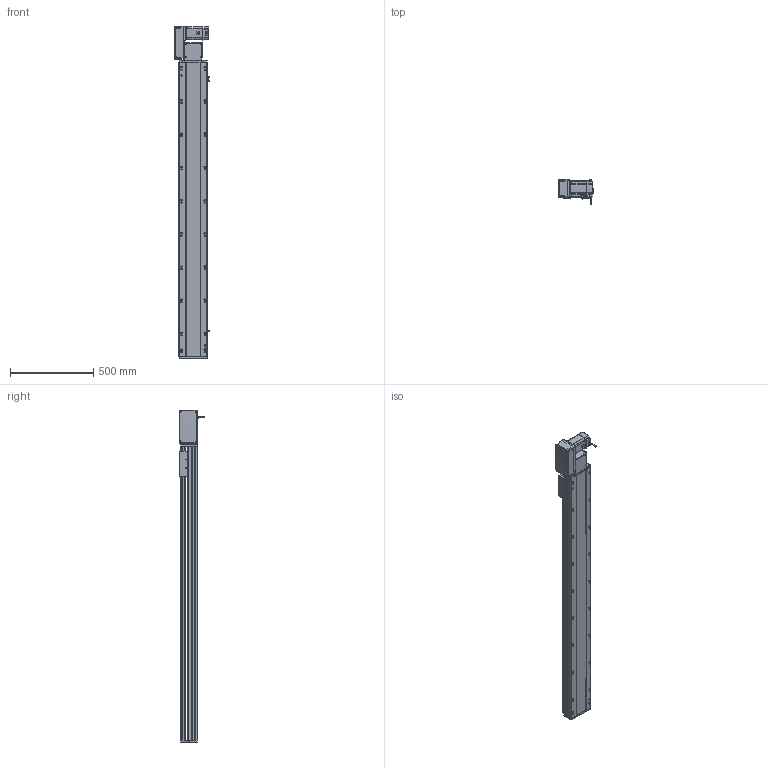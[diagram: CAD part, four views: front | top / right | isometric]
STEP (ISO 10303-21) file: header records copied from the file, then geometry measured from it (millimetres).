
FILE_DESCRIPTION (( 'STEP AP214' ), '1' );
FILE_NAME ('RTB17S-XX-1500-L-M75-C4.STEP', '2025-12-12T00:16:01', ( '' ), ( '' ), 'SwSTEP 2.0', 'SolidWorks 2018', '' );
FILE_SCHEMA (( 'AUTOMOTIVE_DESIGN' ));
Length unit declared in the file: millimetre
Products named in the file (15): RTB17S-L-001-耜醱啣^RTB17S-XX-XX-L-M75-C4; EE672^RTB17S-XX-XX-L-M75-C4; RTB22S-GY-008-M75--萇儂啣^RTB17S-L-々湍釱蚾饜-750W_RTB17S-XX-XX-L-M75-C4; RTB17S-XX-1500-L-M75-C4; 750W萇儂^RTB17S-XX-XX-L-M75-C4; RTB22S-GY-005P^RTB17S-L-々湍釱蚾饜-750W_RTB17S-XX-XX-L-M75-C4; RTH13-BL-012覜茼え俋离^RTB17S-賑釱_RTB17S-XX-XX-L-M75-C4; RTB17S-L-々湍釱蚾饜-750W^RTB17S-XX-XX-L-M75-C4; RTB22S-GY-017P^RTB17S-L-々湍釱蚾饜-750W_RTB17S-XX-XX-L-M75-C4; RTB17S-L-007奻裔^RTB17S-XX-XX-L-M75-C4; RTB22S-GY-018P^RTB17S-L-々湍釱蚾饜-750W_RTB17S-XX-XX-L-M75-C4; RTB17S-賑釱^RTB17S-XX-XX-L-M75-C4; RMP17S-L-014-T20-P75--々湍釱^RTB17S-L-々湍釱蚾饜-750W_RTB17S-XX-XX-L-M75-C4; RTB17-R-011菁釱^RTB17S-XX-XX-L-M75-C4; RTB17S-L-004-賑釱^RTB17S-賑釱_RTB17S-XX-XX-L-M75-C4
Assembly tree (17 placements, depth 3):
  RTB17S-XX-1500-L-M75-C4
    RTB17-R-011菁釱^RTB17S-XX-XX-L-M75-C4
    EE672^RTB17S-XX-XX-L-M75-C4  x3
    RTB17S-L-001-耜醱啣^RTB17S-XX-XX-L-M75-C4
    RTB17S-賑釱^RTB17S-XX-XX-L-M75-C4
      RTB17S-L-004-賑釱^RTB17S-賑釱_RTB17S-XX-XX-L-M75-C4
      RTH13-BL-012覜茼え俋离^RTB17S-賑釱_RTB17S-XX-XX-L-M75-C4
    RTB17S-L-007奻裔^RTB17S-XX-XX-L-M75-C4
    750W萇儂^RTB17S-XX-XX-L-M75-C4
    RTB17S-L-々湍釱蚾饜-750W^RTB17S-XX-XX-L-M75-C4
      RMP17S-L-014-T20-P75--々湍釱^RTB17S-L-々湍釱蚾饜-750W_RTB17S-XX-XX-L-M75-C4
      RTB22S-GY-005P^RTB17S-L-々湍釱蚾饜-750W_RTB17S-XX-XX-L-M75-C4
      RTB22S-GY-017P^RTB17S-L-々湍釱蚾饜-750W_RTB17S-XX-XX-L-M75-C4  x2
      RTB22S-GY-008-M75--萇儂啣^RTB17S-L-々湍釱蚾饜-750W_RTB17S-XX-XX-L-M75-C4
      RTB22S-GY-018P^RTB17S-L-々湍釱蚾饜-750W_RTB17S-XX-XX-L-M75-C4
Bounding box: 210.4 x 152.7 x 1999 mm (x, y, z)
Volume: 15324097.4 mm3; surface area: 2685983 mm2
Topology: 17 solids, 17 shells, 2137 faces, 5944 edges, 3842 vertices
Faces by surface type: plane 976, cylinder 745, bspline 294, cone 110, sphere 8, torus 4
Entity records: 60406 total; most frequent: CARTESIAN_POINT 17808, ORIENTED_EDGE 8732, DIRECTION 8132, EDGE_CURVE 4366, AXIS2_PLACEMENT_3D 2862, VERTEX_POINT 2846, LINE 2408, VECTOR 2408
